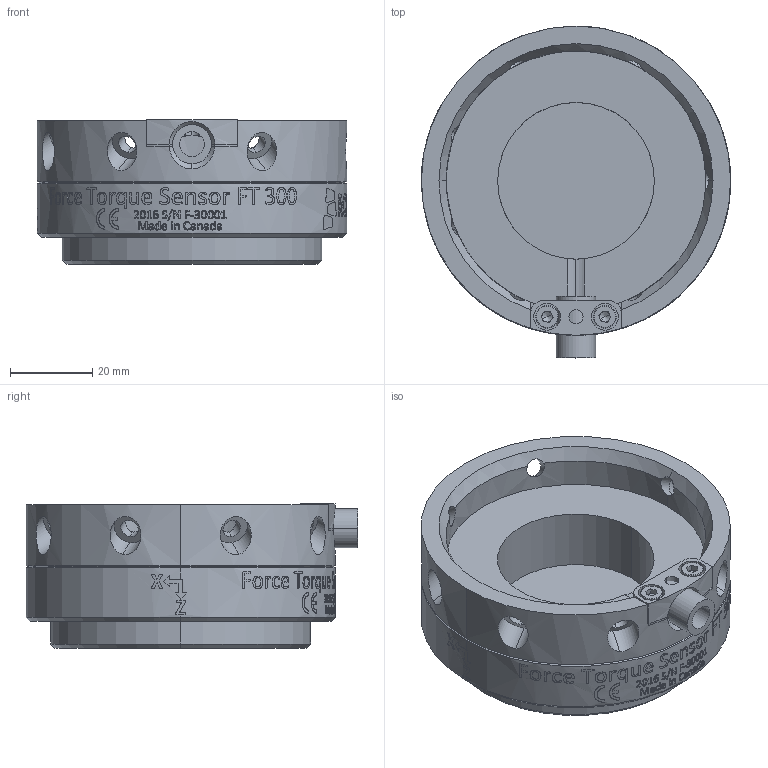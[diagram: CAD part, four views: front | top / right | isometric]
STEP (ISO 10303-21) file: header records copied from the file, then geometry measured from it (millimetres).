
FILE_DESCRIPTION (( 'STEP AP214' ), '1' );
FILE_NAME ('ROBOTIQ_FT-300.STEP', '2020-10-10T09:26:04', ( '' ), ( '' ), 'SwSTEP 2.0', 'SolidWorks 2019', '' );
FILE_SCHEMA (( 'AUTOMOTIVE_DESIGN' ));
Length unit declared in the file: millimetre
Products named in the file (1): ROBOTIQ_FT-300
Bounding box: 75 x 80.49 x 35 mm (x, y, z)
Surface area: 23240.9 mm2 (no closed solid volume)
Topology: 0 solids, 42 shells, 339 faces, 2915 edges, 2586 vertices
Faces by surface type: cylinder 168, bspline 70, plane 67, cone 30, torus 4
Entity records: 72215 total; most frequent: CARTESIAN_POINT 52142, ORIENTED_EDGE 3461, EDGE_CURVE 2911, VERTEX_POINT 2586, B_SPLINE_CURVE_WITH_KNOTS 2087, DIRECTION 1713, AXIS2_PLACEMENT_3D 619, LINE 475
